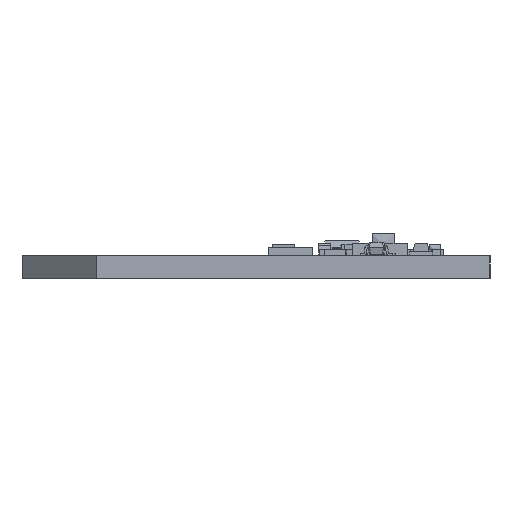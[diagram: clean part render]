
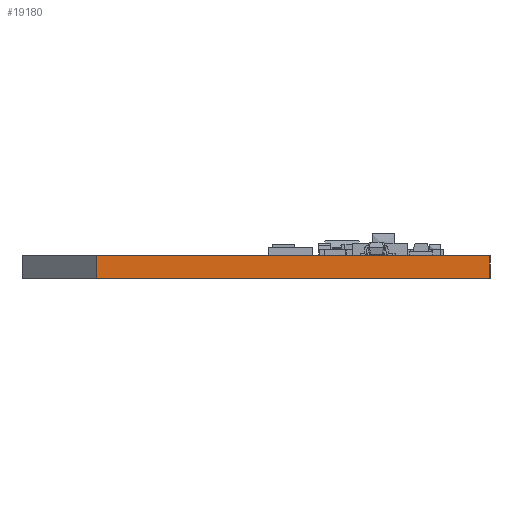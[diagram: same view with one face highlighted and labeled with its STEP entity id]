
A CAD part, front view. The second image highlights one B-rep face of the part: STEP entity #19180.
In plain terms, the highlighted planar face has unit normal (0, -1, 0).
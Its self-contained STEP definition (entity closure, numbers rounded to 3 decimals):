
#1585=PLANE('',#20583);
#2249=FACE_OUTER_BOUND('',#3340,.T.);
#3340=EDGE_LOOP('',(#13560,#13561,#13562,#13563,#13564,#13565));
#4481=LINE('',#27379,#6415);
#4486=LINE('',#27397,#6420);
#4512=LINE('',#27499,#6446);
#4513=LINE('',#27502,#6447);
#4514=LINE('',#27504,#6448);
#4515=LINE('',#27505,#6449);
#6415=VECTOR('',#22239,10.);
#6420=VECTOR('',#22254,10.);
#6446=VECTOR('',#22360,1.);
#6447=VECTOR('',#22365,1.);
#6448=VECTOR('',#22366,1.);
#6449=VECTOR('',#22367,1.);
#8830=VERTEX_POINT('',#27364);
#8832=VERTEX_POINT('',#27368);
#8840=VERTEX_POINT('',#27395);
#8875=VERTEX_POINT('',#27496);
#8876=VERTEX_POINT('',#27498);
#8877=VERTEX_POINT('',#27503);
#10652=EDGE_CURVE('',#8830,#8832,#4481,.T.);
#10661=EDGE_CURVE('',#8840,#8832,#4486,.T.);
#10714=EDGE_CURVE('',#8876,#8875,#4512,.T.);
#10716=EDGE_CURVE('',#8875,#8830,#4513,.T.);
#10717=EDGE_CURVE('',#8877,#8840,#4514,.T.);
#10718=EDGE_CURVE('',#8876,#8877,#4515,.T.);
#13560=ORIENTED_EDGE('',*,*,#10714,.T.);
#13561=ORIENTED_EDGE('',*,*,#10716,.T.);
#13562=ORIENTED_EDGE('',*,*,#10652,.T.);
#13563=ORIENTED_EDGE('',*,*,#10661,.F.);
#13564=ORIENTED_EDGE('',*,*,#10717,.F.);
#13565=ORIENTED_EDGE('',*,*,#10718,.F.);
#19180=ADVANCED_FACE('',(#2249),#1585,.T.);
#20583=AXIS2_PLACEMENT_3D('',#27501,#22363,#22364);
#22239=DIRECTION('',(0.,0.,1.));
#22254=DIRECTION('',(1.,0.,0.));
#22360=DIRECTION('',(0.,0.,1.));
#22363=DIRECTION('center_axis',(0.,-1.,0.));
#22364=DIRECTION('ref_axis',(-1.,0.,0.));
#22365=DIRECTION('',(-1.,0.,0.));
#22366=DIRECTION('',(0.,0.,1.));
#22367=DIRECTION('',(-1.,0.,0.));
#27364=CARTESIAN_POINT('',(16.691,-0.01,1.646));
#27368=CARTESIAN_POINT('',(16.691,-0.01,1.696));
#27379=CARTESIAN_POINT('',(16.691,-0.01,1.646));
#27395=CARTESIAN_POINT('',(5.41,-0.01,1.696));
#27397=CARTESIAN_POINT('',(5.41,-0.01,1.696));
#27496=CARTESIAN_POINT('',(34.01,-0.01,1.646));
#27498=CARTESIAN_POINT('',(34.01,-0.01,0.));
#27499=CARTESIAN_POINT('',(34.01,-0.01,0.));
#27501=CARTESIAN_POINT('Origin',(34.01,-0.01,0.));
#27502=CARTESIAN_POINT('',(34.01,-0.01,1.646));
#27503=CARTESIAN_POINT('',(5.41,-0.01,0.));
#27504=CARTESIAN_POINT('',(5.41,-0.01,0.));
#27505=CARTESIAN_POINT('',(34.01,-0.01,0.));
